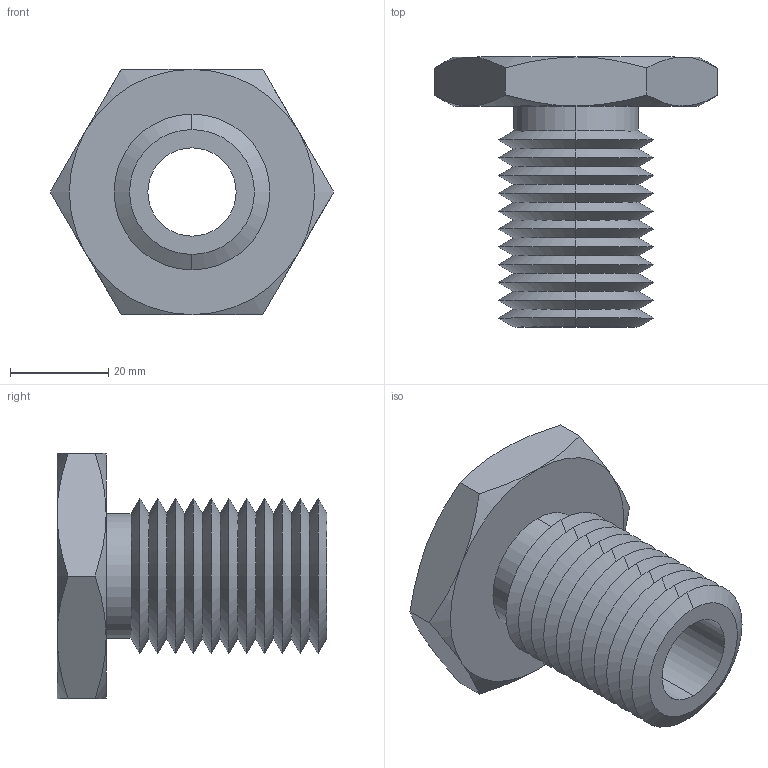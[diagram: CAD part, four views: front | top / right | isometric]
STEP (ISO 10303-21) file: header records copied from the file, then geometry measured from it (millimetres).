
FILE_DESCRIPTION (( 'STEP AP203' ), '1' );
FILE_NAME ('63302.W5125_M18x2,5.step', '2013-12-08T11:58:03', ( 'User' ), ( '' ), 'SwSTEP 2.0', 'SolidWorks 2009', '' );
FILE_SCHEMA (( 'CONFIG_CONTROL_DESIGN' ));
Length unit declared in the file: millimetre
Products named in the file (1): 63302.W5125_M18x2,5
Bounding box: 57.73 x 55 x 50 mm (x, y, z)
Volume: 35538.6 mm3; surface area: 15968.3 mm2
Topology: 1 solids, 1 shells, 71 faces, 146 edges, 78 vertices
Faces by surface type: cone 58, plane 9, cylinder 4
Entity records: 2039 total; most frequent: CARTESIAN_POINT 480, DIRECTION 332, ORIENTED_EDGE 292, EDGE_CURVE 146, AXIS2_PLACEMENT_3D 138, VERTEX_POINT 78, EDGE_LOOP 74, ADVANCED_FACE 71
